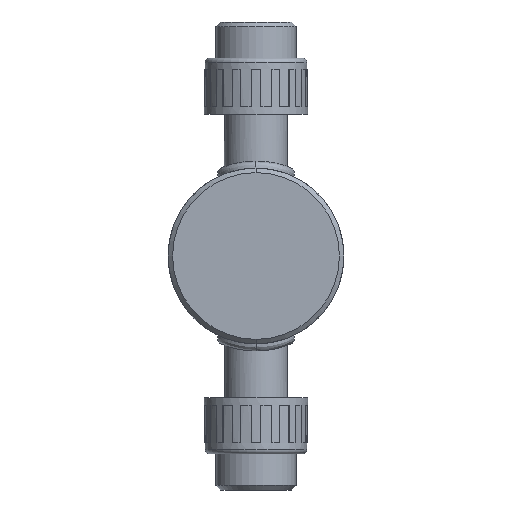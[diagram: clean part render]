
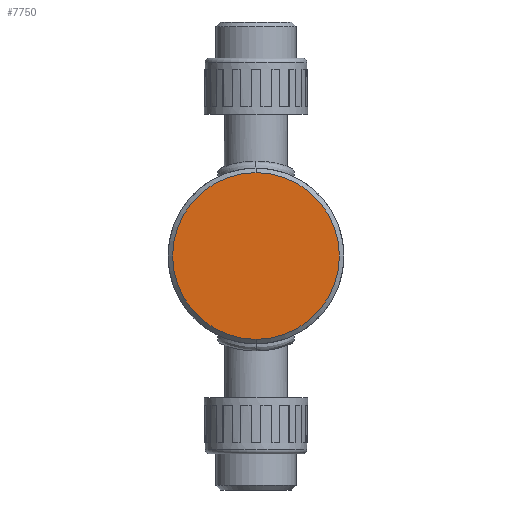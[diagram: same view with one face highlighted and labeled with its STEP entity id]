
A CAD part, front view. The second image highlights one B-rep face of the part: STEP entity #7750.
In plain terms, the highlighted planar face has unit normal (0, -1, 0).
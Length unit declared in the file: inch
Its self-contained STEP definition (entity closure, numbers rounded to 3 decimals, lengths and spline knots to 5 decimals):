
#88 = EDGE_CURVE ( 'NONE', #996, #8455, #6975, .T. ) ;
#337 = EDGE_LOOP ( 'NONE', ( #6531, #6799 ) ) ;
#860 = CARTESIAN_POINT ( 'NONE',  ( 0., 0., 0. ) ) ;
#996 = VERTEX_POINT ( 'NONE', #5612 ) ;
#1260 = EDGE_CURVE ( 'NONE', #8455, #996, #1478, .T. ) ;
#1478 = CIRCLE ( 'NONE', #2644, 1.11 ) ;
#1721 = DIRECTION ( 'NONE',  ( 0., 1., 0. ) ) ;
#1891 = CARTESIAN_POINT ( 'NONE',  ( 0., 0., 0. ) ) ;
#2644 = AXIS2_PLACEMENT_3D ( 'NONE', #1891, #7997, #2776 ) ;
#2776 = DIRECTION ( 'NONE',  ( 0., 0., 1. ) ) ;
#3429 = FACE_OUTER_BOUND ( 'NONE', #337, .T. ) ;
#4683 = CARTESIAN_POINT ( 'NONE',  ( 0., 0., 0. ) ) ;
#5528 = DIRECTION ( 'NONE',  ( 0., 0., 1. ) ) ;
#5612 = CARTESIAN_POINT ( 'NONE',  ( 0., 0., 1.11 ) ) ;
#6531 = ORIENTED_EDGE ( 'NONE', *, *, #88, .T. ) ;
#6552 = AXIS2_PLACEMENT_3D ( 'NONE', #4683, #10757, #5528 ) ;
#6799 = ORIENTED_EDGE ( 'NONE', *, *, #1260, .T. ) ;
#6975 = CIRCLE ( 'NONE', #6552, 1.11 ) ;
#7750 = ADVANCED_FACE ( 'NONE', ( #3429 ), #11283, .F. ) ;
#7833 = DIRECTION ( 'NONE',  ( 0., 0., 1. ) ) ;
#7997 = DIRECTION ( 'NONE',  ( 0., -1., 0. ) ) ;
#8455 = VERTEX_POINT ( 'NONE', #10558 ) ;
#9323 = AXIS2_PLACEMENT_3D ( 'NONE', #860, #1721, #7833 ) ;
#10558 = CARTESIAN_POINT ( 'NONE',  ( 0., 0., -1.11 ) ) ;
#10757 = DIRECTION ( 'NONE',  ( 0., -1., 0. ) ) ;
#11283 = PLANE ( 'NONE',  #9323 ) ;
